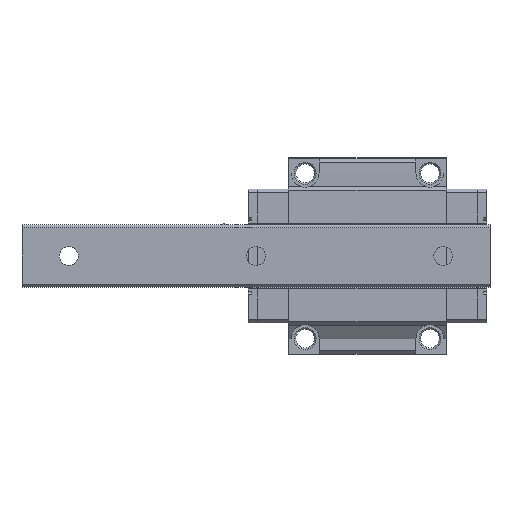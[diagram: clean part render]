
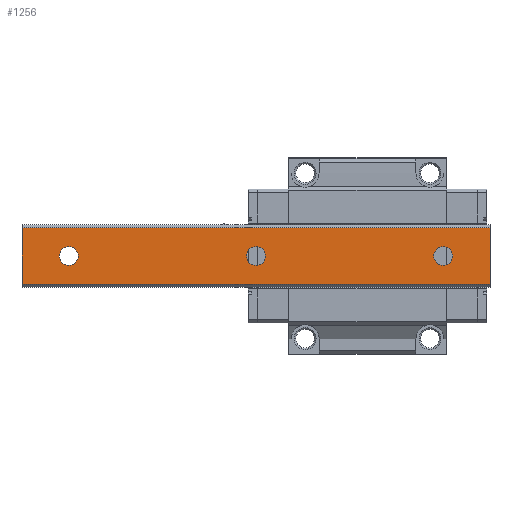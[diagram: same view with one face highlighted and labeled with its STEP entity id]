
A CAD part, front view. The second image highlights one B-rep face of the part: STEP entity #1256.
In plain terms, the highlighted planar face has unit normal (0, -1, 0).
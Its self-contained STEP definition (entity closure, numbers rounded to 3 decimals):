
#1256 = ADVANCED_FACE( '', ( #2630, #2631, #2632, #2633 ), #2634, .F. );
#2630 = FACE_BOUND( '', #4197, .T. );
#2631 = FACE_BOUND( '', #4198, .T. );
#2632 = FACE_BOUND( '', #4199, .T. );
#2633 = FACE_OUTER_BOUND( '', #4200, .T. );
#2634 = PLANE( '', #4201 );
#4197 = EDGE_LOOP( '', ( #7388 ) );
#4198 = EDGE_LOOP( '', ( #7389 ) );
#4199 = EDGE_LOOP( '', ( #7390 ) );
#4200 = EDGE_LOOP( '', ( #7391, #7392, #7393, #7394 ) );
#4201 = AXIS2_PLACEMENT_3D( '', #7395, #7396, #7397 );
#7388 = ORIENTED_EDGE( '', *, *, #9457, .F. );
#7389 = ORIENTED_EDGE( '', *, *, #10430, .F. );
#7390 = ORIENTED_EDGE( '', *, *, #10597, .F. );
#7391 = ORIENTED_EDGE( '', *, *, #10598, .T. );
#7392 = ORIENTED_EDGE( '', *, *, #9678, .F. );
#7393 = ORIENTED_EDGE( '', *, *, #10441, .F. );
#7394 = ORIENTED_EDGE( '', *, *, #10351, .T. );
#7395 = CARTESIAN_POINT( '', ( 75., 0., 9. ) );
#7396 = DIRECTION( '', ( 0., 1., 0. ) );
#7397 = DIRECTION( '', ( 0., 0., 1. ) );
#9457 = EDGE_CURVE( '', #11299, #11299, #11300, .T. );
#9678 = EDGE_CURVE( '', #11674, #11669, #11676, .T. );
#10351 = EDGE_CURVE( '', #12738, #12736, #12739, .T. );
#10430 = EDGE_CURVE( '', #12851, #12851, #12852, .T. );
#10441 = EDGE_CURVE( '', #12738, #11674, #12869, .T. );
#10597 = EDGE_CURVE( '', #13084, #13084, #13085, .T. );
#10598 = EDGE_CURVE( '', #12736, #11669, #13086, .T. );
#11299 = VERTEX_POINT( '', #13984 );
#11300 = CIRCLE( '', #13985, 3. );
#11669 = VERTEX_POINT( '', #14495 );
#11674 = VERTEX_POINT( '', #14502 );
#11676 = LINE( '', #14505, #14506 );
#12736 = VERTEX_POINT( '', #16095 );
#12738 = VERTEX_POINT( '', #16098 );
#12739 = LINE( '', #16099, #16100 );
#12851 = VERTEX_POINT( '', #16282 );
#12852 = CIRCLE( '', #16283, 3. );
#12869 = LINE( '', #16306, #16307 );
#13084 = VERTEX_POINT( '', #16621 );
#13085 = CIRCLE( '', #16622, 3. );
#13086 = LINE( '', #16623, #16624 );
#13984 = CARTESIAN_POINT( '', ( 0., 0., -3. ) );
#13985 = AXIS2_PLACEMENT_3D( '', #17547, #17548, #17549 );
#14495 = CARTESIAN_POINT( '', ( -75., 0., -9. ) );
#14502 = CARTESIAN_POINT( '', ( 75., 0., -9. ) );
#14505 = CARTESIAN_POINT( '', ( 75., 0., -9. ) );
#14506 = VECTOR( '', #17793, 1000. );
#16095 = CARTESIAN_POINT( '', ( -75., 0., 9. ) );
#16098 = CARTESIAN_POINT( '', ( 75., 0., 9. ) );
#16099 = CARTESIAN_POINT( '', ( 75., 0., 9. ) );
#16100 = VECTOR( '', #18413, 1000. );
#16282 = CARTESIAN_POINT( '', ( 60., 0., -3. ) );
#16283 = AXIS2_PLACEMENT_3D( '', #18481, #18482, #18483 );
#16306 = CARTESIAN_POINT( '', ( 75., 0., 9. ) );
#16307 = VECTOR( '', #18496, 1000. );
#16621 = CARTESIAN_POINT( '', ( -60., 0., -3. ) );
#16622 = AXIS2_PLACEMENT_3D( '', #18647, #18648, #18649 );
#16623 = CARTESIAN_POINT( '', ( -75., 0., 9. ) );
#16624 = VECTOR( '', #18650, 1000. );
#17547 = CARTESIAN_POINT( '', ( 0., 0., 0. ) );
#17548 = DIRECTION( '', ( 0., -1., 0. ) );
#17549 = DIRECTION( '', ( 0., 0., -1. ) );
#17793 = DIRECTION( '', ( -1., 0., 0. ) );
#18413 = DIRECTION( '', ( -1., 0., 0. ) );
#18481 = CARTESIAN_POINT( '', ( 60., 0., 0. ) );
#18482 = DIRECTION( '', ( 0., -1., 0. ) );
#18483 = DIRECTION( '', ( 0., 0., -1. ) );
#18496 = DIRECTION( '', ( 0., 0., -1. ) );
#18647 = CARTESIAN_POINT( '', ( -60., 0., 0. ) );
#18648 = DIRECTION( '', ( 0., -1., 0. ) );
#18649 = DIRECTION( '', ( 0., 0., -1. ) );
#18650 = DIRECTION( '', ( 0., 0., -1. ) );
